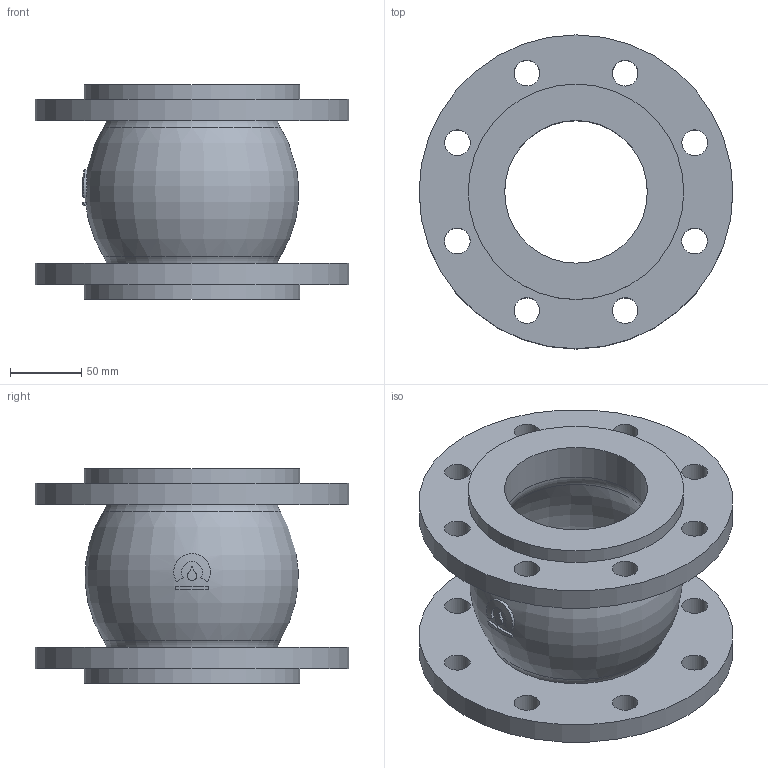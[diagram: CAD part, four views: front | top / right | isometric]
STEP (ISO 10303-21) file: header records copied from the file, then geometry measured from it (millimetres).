
FILE_DESCRIPTION(('STEP AP203'), '1');
FILE_NAME('Êîìïåíñàòîð KMS DN100 PN10_16', '', ('UNSPECIFIED'), ('UNSPECIFIED'), 'ASCON STEP Converter 1.6', 'ASCON Math Kernel', '');
FILE_SCHEMA(('CONFIG_CONTROL_DESIGN'));
Length unit declared in the file: millimetre
Bounding box: 220 x 220 x 150 mm (x, y, z)
Volume: 1474325.1 mm3; surface area: 251042.6 mm2
Topology: 1 solids, 1 shells, 51 faces, 120 edges, 78 vertices
Faces by surface type: cylinder 29, plane 13, torus 9
Full cylindrical faces by diameter (mm): 18 x16, 100 x2, 151 x2, 220 x2
Entity records: 2445 total; most frequent: CARTESIAN_POINT 858, DIRECTION 230, ORIENTED_EDGE 184, EDGE_LOOP 120, AXIS2_PLACEMENT_3D 108, EDGE_CURVE 92, VERTEX_POINT 78, FACE_BOUND 64
